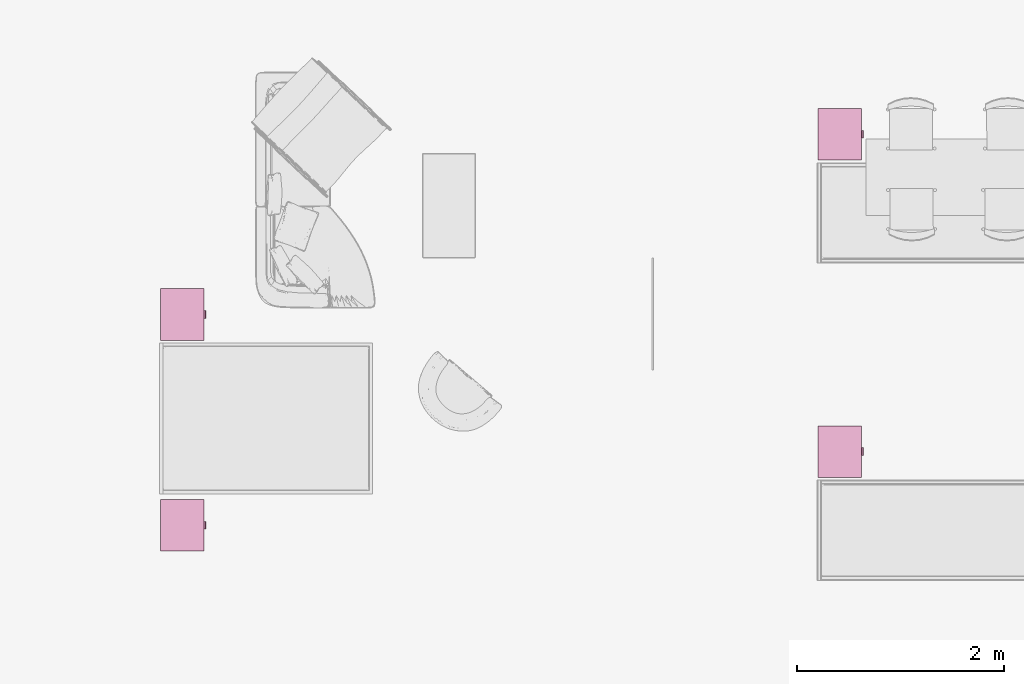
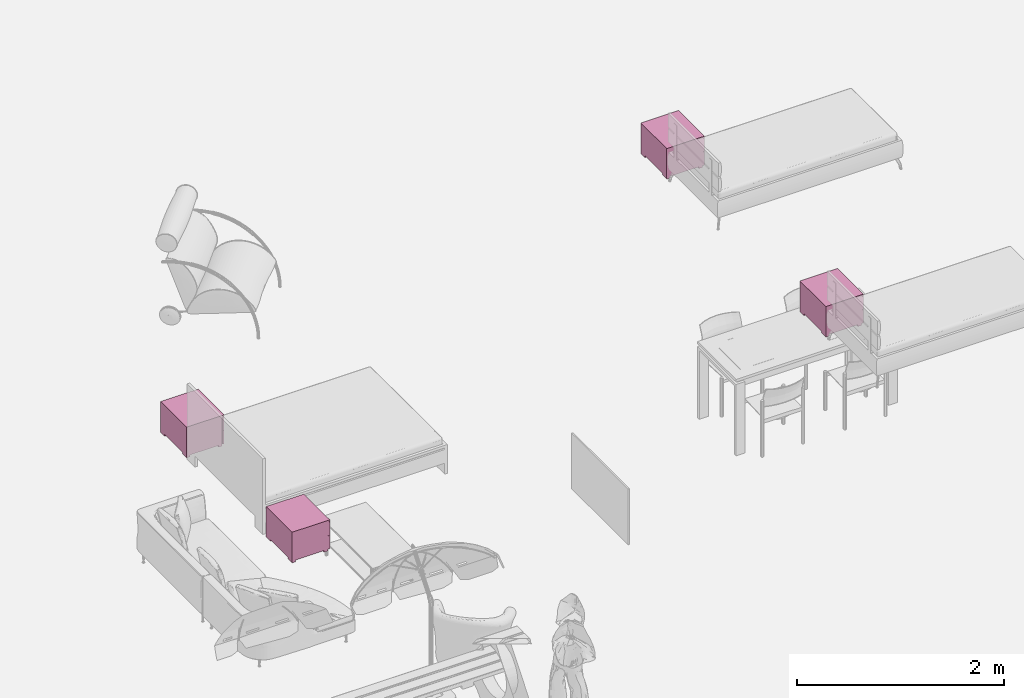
# One storey, part 3 of 4: 4 furniture elements.
"""IFC4 building model written with IfcOpenShell, lengths in metres."""

from ifc_helpers import new_model, entity, si_unit, converted_unit, frame, origin, origin_with_axes, place, context, subcontext, project, spatial, faceted_brep, source, transform, mapped, material, constituent, constituent_set, element, save


model = new_model("IFC4")

# Units and contexts
model_context = context("Model", 3, precision=1e-05, world=origin())
body_context = subcontext(model_context, "Body", "Model", "MODEL_VIEW")
ifc_project = project(units=[si_unit("LENGTHUNIT", "METRE"), si_unit("AREAUNIT", "SQUARE_METRE"), si_unit("VOLUMEUNIT", "CUBIC_METRE"), si_unit("MASSUNIT", "GRAM", prefix="KILO"), converted_unit("PLANEANGLEUNIT", "DEGREE", entity("IfcPlaneAngleMeasure", 0.0174532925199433), si_unit("PLANEANGLEUNIT", "RADIAN"), dimensions=[0, 0, 0, 0, 0, 0, 0])], contexts=[model_context])

# Building, storey
building_placement = place(None, origin())
building = spatial("IfcBuilding", under=ifc_project, at=building_placement, Name="Projet de Construction", CompositionType="ELEMENT")
storey_placement = place(building_placement, frame((0.0, 0.0, -1.15)))
storey = spatial("IfcBuildingStorey", under=building, at=storey_placement, Name="Environnement", CompositionType="ELEMENT", Elevation=-1.15)

# Furniture
ifc_material_1 = material()
ifc_constituent_1 = constituent(ifc_material_1)
ifc_constituent_set_1 = constituent_set(constituents=[ifc_constituent_1])
shared_shape = source(origin_with_axes(), body_context, "Body", "Brep", [
    faceted_brep([(0.5, 0.0410647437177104, 0.0199999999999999), (0.0, 0.0410647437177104, 0.02), (0.0, 0.0210647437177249, 0.02), (0.5, 0.0210647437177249, 0.0199999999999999), (0.0, 0.0410647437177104, 0.1775), (0.5, 0.0410647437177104, 0.1775), (0.5, 0.0210647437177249, 0.1775), (0.0, 0.0210647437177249, 0.1775)], [[[0, 1, 2, 3]], [[4, 5, 6, 7]], [[1, 0, 5, 4]], [[2, 1, 4, 7]], [[3, 2, 7, 6]], [[0, 3, 6, 5]]], orient=[[False], [False], [False], [False], [False], [False]]),
    faceted_brep([(0.02, 0.441064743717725, 0.0399999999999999), (0.02, 0.0635647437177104, 0.04), (0.48, 0.0635647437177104, 0.0399999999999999), (0.48, 0.441064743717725, 0.0399999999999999), (0.02, 0.0635647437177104, 0.06), (0.02, 0.441064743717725, 0.0599999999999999), (0.48, 0.441064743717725, 0.0599999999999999), (0.48, 0.0635647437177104, 0.0599999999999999)], [[[0, 1, 2, 3]], [[4, 5, 6, 7]], [[1, 0, 5, 4]], [[2, 1, 4, 7]], [[3, 2, 7, 6]], [[0, 3, 6, 5]]], orient=[[False], [False], [False], [False], [False], [False]]),
    faceted_brep([(0.0, 0.441064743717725, 0.34), (0.0, 0.0210647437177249, 0.34), (0.5, 0.0210647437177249, 0.34), (0.5, 0.441064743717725, 0.34), (0.0, 0.0210647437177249, 0.36), (0.0, 0.441064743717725, 0.36), (0.5, 0.441064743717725, 0.36), (0.5, 0.0210647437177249, 0.36)], [[[0, 1, 2, 3]], [[4, 5, 6, 7]], [[1, 0, 5, 4]], [[2, 1, 4, 7]], [[3, 2, 7, 6]], [[0, 3, 6, 5]]], orient=[[False], [False], [False], [False], [False], [False]]),
    faceted_brep([(0.48, 0.401064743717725, 0.0599999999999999), (0.02, 0.401064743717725, 0.0599999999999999), (0.02, 0.0410647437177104, 0.06), (0.48, 0.0410647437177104, 0.0599999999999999), (0.032, 0.0530647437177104, 0.06), (0.032, 0.389064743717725, 0.0599999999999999), (0.468, 0.389064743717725, 0.0599999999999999), (0.468, 0.0530647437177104, 0.0599999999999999), (0.48, 0.401064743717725, 0.1775), (0.02, 0.401064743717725, 0.1775), (0.48, 0.0410647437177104, 0.1775), (0.02, 0.0410647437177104, 0.1775), (0.468, 0.0530647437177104, 0.1775), (0.468, 0.389064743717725, 0.1775), (0.032, 0.389064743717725, 0.1775), (0.032, 0.0530647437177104, 0.1775)], [[[0, 1, 2, 3], [4, 5, 6, 7]], [[8, 9, 1, 0]], [[9, 8, 10, 11], [12, 13, 14, 15]], [[6, 5, 14, 13]], [[4, 7, 12, 15]], [[3, 2, 11, 10]], [[4, 15, 14, 5]], [[11, 2, 1, 9]], [[3, 10, 8, 0]], [[12, 7, 6, 13]]], orient=[[False, False], [False], [False, False], [False], [False], [False], [False], [False], [False], [False]]),
    faceted_brep([(0.48, 0.401064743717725, 0.1975), (0.02, 0.401064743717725, 0.1975), (0.02, 0.0410647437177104, 0.1975), (0.48, 0.0410647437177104, 0.1975), (0.032, 0.0530647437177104, 0.1975), (0.032, 0.389064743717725, 0.1975), (0.468, 0.389064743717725, 0.1975), (0.468, 0.0530647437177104, 0.1975), (0.48, 0.401064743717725, 0.3375), (0.02, 0.401064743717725, 0.3375), (0.48, 0.0410647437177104, 0.3375), (0.02, 0.0410647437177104, 0.3375), (0.468, 0.0530647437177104, 0.3375), (0.468, 0.389064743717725, 0.3375), (0.032, 0.389064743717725, 0.3375), (0.032, 0.0530647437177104, 0.3375)], [[[0, 1, 2, 3], [4, 5, 6, 7]], [[8, 9, 1, 0]], [[9, 8, 10, 11], [12, 13, 14, 15]], [[6, 5, 14, 13]], [[4, 7, 12, 15]], [[3, 2, 11, 10]], [[4, 15, 14, 5]], [[11, 2, 1, 9]], [[3, 10, 8, 0]], [[12, 7, 6, 13]]], orient=[[False, False], [False], [False, False], [False], [False], [False], [False], [False], [False], [False]]),
    faceted_brep([(0.0, 0.0410647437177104, 0.2975), (0.0, 0.0410647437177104, 0.22), (0.04, 0.0410647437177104, 0.22), (0.04, 0.0410647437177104, 0.2975), (0.0, 0.0210647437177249, 0.22), (0.0, 0.0210647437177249, 0.2975), (0.04, 0.0210647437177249, 0.2975), (0.04, 0.0210647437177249, 0.22)], [[[0, 1, 2, 3]], [[4, 5, 6, 7]], [[1, 0, 5, 4]], [[2, 1, 4, 7]], [[3, 2, 7, 6]], [[0, 3, 6, 5]]], orient=[[False], [False], [False], [False], [False], [False]]),
    faceted_brep([(0.0, 0.0410647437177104, 0.22), (0.0, 0.0410647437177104, 0.18), (0.5, 0.0410647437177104, 0.18), (0.5, 0.0410647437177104, 0.22), (0.0, 0.0210647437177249, 0.18), (0.0, 0.0210647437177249, 0.22), (0.5, 0.0210647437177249, 0.22), (0.5, 0.0210647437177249, 0.18)], [[[0, 1, 2, 3]], [[4, 5, 6, 7]], [[1, 0, 5, 4]], [[2, 1, 4, 7]], [[3, 2, 7, 6]], [[0, 3, 6, 5]]], orient=[[False], [False], [False], [False], [False], [False]]),
    faceted_brep([(0.0, 0.0410647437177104, 0.3375), (0.0, 0.0410647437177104, 0.2975), (0.5, 0.0410647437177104, 0.2975), (0.5, 0.0410647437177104, 0.3375), (0.0, 0.0210647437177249, 0.2975), (0.0, 0.0210647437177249, 0.3375), (0.5, 0.0210647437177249, 0.3375), (0.5, 0.0210647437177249, 0.2975)], [[[0, 1, 2, 3]], [[4, 5, 6, 7]], [[1, 0, 5, 4]], [[2, 1, 4, 7]], [[3, 2, 7, 6]], [[0, 3, 6, 5]]], orient=[[False], [False], [False], [False], [False], [False]]),
    faceted_brep([(0.46, 0.0410647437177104, 0.2975), (0.46, 0.0410647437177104, 0.22), (0.5, 0.0410647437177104, 0.22), (0.5, 0.0410647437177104, 0.2975), (0.46, 0.0210647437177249, 0.22), (0.46, 0.0210647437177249, 0.2975), (0.5, 0.0210647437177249, 0.2975), (0.5, 0.0210647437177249, 0.22)], [[[0, 1, 2, 3]], [[4, 5, 6, 7]], [[1, 0, 5, 4]], [[2, 1, 4, 7]], [[3, 2, 7, 6]], [[0, 3, 6, 5]]], orient=[[False], [False], [False], [False], [False], [False]]),
    faceted_brep([(0.0, 0.441064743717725, 0.02), (0.0, 0.0435647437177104, 0.0200000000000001), (0.02, 0.0435647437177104, 0.0200000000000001), (0.02, 0.441064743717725, 0.02), (0.0, 0.0435647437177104, 0.34), (0.0, 0.441064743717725, 0.34), (0.02, 0.441064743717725, 0.34), (0.02, 0.0435647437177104, 0.34)], [[[0, 1, 2, 3]], [[4, 5, 6, 7]], [[1, 0, 5, 4]], [[2, 1, 4, 7]], [[3, 2, 7, 6]], [[0, 3, 6, 5]]], orient=[[False], [False], [False], [False], [False], [False]]),
    faceted_brep([(0.48, 0.441064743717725, 0.0199999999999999), (0.48, 0.0435647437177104, 0.02), (0.5, 0.0435647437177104, 0.02), (0.5, 0.441064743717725, 0.0199999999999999), (0.48, 0.0435647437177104, 0.34), (0.48, 0.441064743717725, 0.34), (0.5, 0.441064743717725, 0.34), (0.5, 0.0435647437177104, 0.34)], [[[0, 1, 2, 3]], [[4, 5, 6, 7]], [[1, 0, 5, 4]], [[2, 1, 4, 7]], [[3, 2, 7, 6]], [[0, 3, 6, 5]]], orient=[[False], [False], [False], [False], [False], [False]]),
    faceted_brep([(0.48, 0.441064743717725, 0.0199999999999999), (0.02, 0.441064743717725, 0.02), (0.02, 0.438064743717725, 0.02), (0.48, 0.438064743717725, 0.0199999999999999), (0.02, 0.441064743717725, 0.34), (0.48, 0.441064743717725, 0.34), (0.48, 0.438064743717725, 0.34), (0.02, 0.438064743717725, 0.34)], [[[0, 1, 2, 3]], [[4, 5, 6, 7]], [[1, 0, 5, 4]], [[2, 1, 4, 7]], [[3, 2, 7, 6]], [[0, 3, 6, 5]]], orient=[[False], [False], [False], [False], [False], [False]]),
    faceted_brep([(0.04, 0.0410647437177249, 0.2975), (0.04, 0.0410647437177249, 0.22), (0.46, 0.0410647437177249, 0.22), (0.46, 0.0410647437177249, 0.2975), (0.04, 0.0310647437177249, 0.22), (0.04, 0.0310647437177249, 0.2975), (0.46, 0.0310647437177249, 0.2975), (0.46, 0.0310647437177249, 0.22)], [[[0, 1, 2, 3]], [[4, 5, 6, 7]], [[1, 0, 5, 4]], [[2, 1, 4, 7]], [[3, 2, 7, 6]], [[0, 3, 6, 5]]], orient=[[False], [False], [False], [False], [False], [False]]),
    faceted_brep([(0.2875, 0.0210647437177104, 0.321499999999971), (0.2875, 0.0210647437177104, 0.313499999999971), (0.2875, 0.0103966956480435, 0.313499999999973), (0.2875, 0.00879153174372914, 0.312071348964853), (0.2875, 0.00571188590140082, 0.311435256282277), (0.2875, 0.00272678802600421, 0.312424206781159), (0.2875, 0.000636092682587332, 0.314773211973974), (0.2875, 0.0, 0.317852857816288), (0.2875, 0.000988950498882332, 0.320837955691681), (0.2875, 0.0033379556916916, 0.322928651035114), (0.2875, 0.00641760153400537, 0.32356474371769), (0.2875, 0.00940269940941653, 0.322575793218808), (0.2875, 0.0103601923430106, 0.321499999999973), (0.2125, 0.0210647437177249, 0.313500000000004), (0.2125, 0.0210647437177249, 0.321500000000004), (0.2125, 0.0103601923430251, 0.321500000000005), (0.2125, 0.00940269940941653, 0.322575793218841), (0.2125, 0.00641760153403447, 0.323564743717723), (0.2125, 0.00333795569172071, 0.322928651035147), (0.2125, 0.000988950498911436, 0.320837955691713), (0.2125, 1.45519152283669e-14, 0.317852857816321), (0.2125, 0.000636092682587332, 0.314773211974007), (0.2125, 0.00272678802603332, 0.312424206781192), (0.2125, 0.00571188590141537, 0.31143525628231), (0.2125, 0.00879153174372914, 0.312071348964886), (0.2125, 0.0103966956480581, 0.313500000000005)], [[[0, 1, 2, 3, 4, 5, 6, 7, 8, 9, 10, 11, 12]], [[13, 14, 15, 16, 17, 18, 19, 20, 21, 22, 23, 24, 25]], [[1, 13, 25, 2]], [[14, 0, 12, 15]], [[14, 13, 1, 0]], [[24, 3, 2, 25]], [[24, 23, 4, 3]], [[23, 22, 5, 4]], [[22, 21, 6, 5]], [[21, 20, 7, 6]], [[20, 19, 8, 7]], [[19, 18, 9, 8]], [[18, 17, 10, 9]], [[17, 16, 11, 10]], [[11, 16, 15, 12]]], orient=[[False], [False], [False], [False], [False], [False], [False], [False], [False], [False], [False], [False], [False], [False], [False]]),
    faceted_brep([(0.2875, 0.0210647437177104, 0.118500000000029), (0.2875, 0.0103601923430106, 0.118500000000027), (0.2875, 0.00940269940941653, 0.117424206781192), (0.2875, 0.00641760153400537, 0.11643525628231), (0.2875, 0.0033379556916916, 0.117071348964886), (0.2875, 0.000988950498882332, 0.119162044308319), (0.2875, 0.0, 0.122147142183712), (0.2875, 0.000636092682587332, 0.125226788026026), (0.2875, 0.00272678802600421, 0.127575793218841), (0.2875, 0.00571188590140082, 0.128564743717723), (0.2875, 0.00879153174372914, 0.127928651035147), (0.2875, 0.0103966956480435, 0.126500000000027), (0.2875, 0.0210647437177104, 0.126500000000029), (0.2125, 0.0210647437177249, 0.126499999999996), (0.2125, 0.0103966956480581, 0.126499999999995), (0.2125, 0.00879153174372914, 0.127928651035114), (0.2125, 0.00571188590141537, 0.12856474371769), (0.2125, 0.00272678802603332, 0.127575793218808), (0.2125, 0.000636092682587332, 0.125226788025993), (0.2125, 1.45519152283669e-14, 0.12214714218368), (0.2125, 0.000988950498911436, 0.119162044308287), (0.2125, 0.00333795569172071, 0.117071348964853), (0.2125, 0.00641760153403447, 0.116435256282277), (0.2125, 0.00940269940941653, 0.117424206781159), (0.2125, 0.0103601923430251, 0.118499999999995), (0.2125, 0.0210647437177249, 0.118499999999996)], [[[0, 1, 2, 3, 4, 5, 6, 7, 8, 9, 10, 11, 12]], [[13, 14, 15, 16, 17, 18, 19, 20, 21, 22, 23, 24, 25]], [[12, 11, 14, 13]], [[25, 24, 1, 0]], [[25, 0, 12, 13]], [[15, 14, 11, 10]], [[15, 10, 9, 16]], [[16, 9, 8, 17]], [[17, 8, 7, 18]], [[18, 7, 6, 19]], [[19, 6, 5, 20]], [[20, 5, 4, 21]], [[21, 4, 3, 22]], [[22, 3, 2, 23]], [[2, 1, 24, 23]]], orient=[[False], [False], [False], [False], [False], [False], [False], [False], [False], [False], [False], [False], [False], [False], [False]]),
    faceted_brep([(0.42, 0.441064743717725, 0.0), (0.42, 0.401064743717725, 0.0), (0.5, 0.401064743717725, 0.0), (0.5, 0.441064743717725, 0.0), (0.42, 0.401064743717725, 0.02), (0.42, 0.441064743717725, 0.02), (0.5, 0.441064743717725, 0.02), (0.5, 0.401064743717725, 0.02)], [[[0, 1, 2, 3]], [[4, 5, 6, 7]], [[1, 0, 5, 4]], [[2, 1, 4, 7]], [[3, 2, 7, 6]], [[0, 3, 6, 5]]], orient=[[False], [False], [False], [False], [False], [False]]),
    faceted_brep([(0.42, 0.0835647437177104, 5.6843418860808e-17), (0.42, 0.0435647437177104, 5.6843418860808e-17), (0.5, 0.0435647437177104, 5.6843418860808e-17), (0.5, 0.0835647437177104, 5.6843418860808e-17), (0.42, 0.0435647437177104, 0.0200000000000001), (0.42, 0.0835647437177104, 0.0200000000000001), (0.5, 0.0835647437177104, 0.0200000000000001), (0.5, 0.0435647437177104, 0.0200000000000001)], [[[0, 1, 2, 3]], [[4, 5, 6, 7]], [[1, 0, 5, 4]], [[2, 1, 4, 7]], [[3, 2, 7, 6]], [[0, 3, 6, 5]]], orient=[[False], [False], [False], [False], [False], [False]]),
    faceted_brep([(0.0, 0.441064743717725, 0.0), (0.0, 0.401064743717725, 0.0), (0.08, 0.401064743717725, 0.0), (0.08, 0.441064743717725, 0.0), (0.0, 0.401064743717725, 0.02), (0.0, 0.441064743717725, 0.02), (0.08, 0.441064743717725, 0.02), (0.08, 0.401064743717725, 0.02)], [[[0, 1, 2, 3]], [[4, 5, 6, 7]], [[1, 0, 5, 4]], [[2, 1, 4, 7]], [[3, 2, 7, 6]], [[0, 3, 6, 5]]], orient=[[False], [False], [False], [False], [False], [False]]),
    faceted_brep([(0.0, 0.0835647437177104, 5.6843418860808e-17), (0.0, 0.0435647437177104, 5.6843418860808e-17), (0.08, 0.0435647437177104, 5.6843418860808e-17), (0.08, 0.0835647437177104, 5.6843418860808e-17), (0.0, 0.0435647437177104, 0.0200000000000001), (0.0, 0.0835647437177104, 0.0200000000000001), (0.08, 0.0835647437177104, 0.0200000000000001), (0.08, 0.0435647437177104, 0.0200000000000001)], [[[0, 1, 2, 3]], [[4, 5, 6, 7]], [[1, 0, 5, 4]], [[2, 1, 4, 7]], [[3, 2, 7, 6]], [[0, 3, 6, 5]]], orient=[[False], [False], [False], [False], [False], [False]]),
])
furniture_1_placement = place(storey_placement, frame((-0.00910015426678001, 5.89342474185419, 4.25), z_axis=(0.0, 0.0, 1.0), x_axis=(1.22464679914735e-16, 1.0, 0.0)))
element("IfcFurniture", 1, at=furniture_1_placement, inside=storey, material=ifc_constituent_set_1, Name="Table de nuit A", context=body_context, shape_type="MappedRepresentation", body=[
    mapped(shared_shape, transform((0.0, 0.0, 0.0), x_axis=(1.0, 0.0, 0.0), y_axis=(0.0, 1.0, 0.0), z_axis=(0.0, 0.0, 1.0), scale=1.0)),
])
ifc_material_2 = material()
ifc_constituent_2 = constituent(ifc_material_2)
ifc_constituent_set_2 = constituent_set(constituents=[ifc_constituent_2])
furniture_2_placement = place(storey_placement, frame((-0.00910015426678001, 2.82342474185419, 4.25), z_axis=(0.0, 0.0, 1.0), x_axis=(1.22464679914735e-16, 1.0, 0.0)))
element("IfcFurniture", 2, at=furniture_2_placement, inside=storey, material=ifc_constituent_set_2, Name="Table de nuit A", context=body_context, shape_type="MappedRepresentation", body=[
    mapped(shared_shape, transform((0.0, 0.0, 0.0), x_axis=(1.0, 0.0, 0.0), y_axis=(0.0, 1.0, 0.0), z_axis=(0.0, 0.0, 1.0), scale=1.0)),
])
ifc_material_3 = material()
ifc_constituent_3 = constituent(ifc_material_3)
ifc_constituent_set_3 = constituent_set(constituents=[ifc_constituent_3])
furniture_3_placement = place(storey_placement, frame((-6.36933635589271, 2.11032625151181, 4.25), z_axis=(0.0, 0.0, 1.0), x_axis=(1.22464679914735e-16, 1.0, 0.0)))
element("IfcFurniture", 3, at=furniture_3_placement, inside=storey, material=ifc_constituent_set_3, Name="Table de nuit A", context=body_context, shape_type="MappedRepresentation", body=[
    mapped(shared_shape, transform((0.0, 0.0, 0.0), x_axis=(1.0, 0.0, 0.0), y_axis=(0.0, 1.0, 0.0), z_axis=(0.0, 0.0, 1.0), scale=1.0)),
])
ifc_material_4 = material()
ifc_constituent_4 = constituent(ifc_material_4)
ifc_constituent_set_4 = constituent_set(constituents=[ifc_constituent_4])
furniture_4_placement = place(storey_placement, frame((-6.36933635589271, 4.15040219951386, 4.25), z_axis=(0.0, 0.0, 1.0), x_axis=(1.22464679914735e-16, 1.0, 0.0)))
element("IfcFurniture", 4, at=furniture_4_placement, inside=storey, material=ifc_constituent_set_4, Name="Table de nuit A", context=body_context, shape_type="MappedRepresentation", body=[
    mapped(shared_shape, transform((0.0, 0.0, 0.0), x_axis=(1.0, 0.0, 0.0), y_axis=(0.0, 1.0, 0.0), z_axis=(0.0, 0.0, 1.0), scale=1.0)),
])

save(model, "model.ifc")
